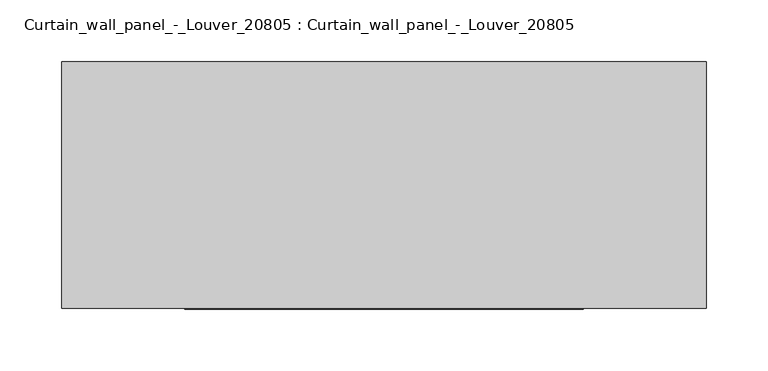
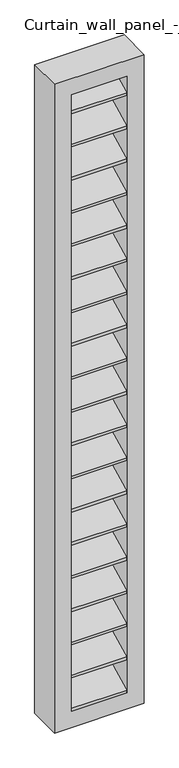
"""IFC4 building model written with IfcOpenShell, lengths in millimetres: plate geometry, Curtain_wall_panel_-_Louver_20805 : Curtain_wall_panel_-_Louver_20805."""

import ifcopenshell
import ifcopenshell.guid

model = None  # the IFC model being written
_history = None  # IfcOwnerHistory: only IFC2X3 demands one
_inside = {}  # id of a spatial element -> (the spatial element, [elements in it])
_under = {}  # id of a project, library or spatial element -> (it, [spatial elements below it])
_declared = {}  # id of a project -> (the project, [libraries it declares])
_typed = {}  # id of a type object -> (the type object, [elements of that type])
_made_of = {}  # id of a material, layer set ... -> (it, [elements and type objects made of it])


def new_model(schema):
    """Start an empty IFC model of exactly this schema.

    Asked for "IFC4X3", IfcOpenShell would pick the latest addendum, in which some entities
    have other attributes; the version numbers below select the first issue.
    IFC2X3 requires an IfcOwnerHistory on every rooted entity: one is made here for all.
    """
    global model, _history
    if schema == "IFC4X3":
        model = ifcopenshell.file(schema_version=(4, 3, 0, 0))
    else:
        model = ifcopenshell.file(schema=schema)
    _inside.clear()
    _under.clear()
    _declared.clear()
    _typed.clear()
    _made_of.clear()
    _history = None
    if model.schema == "IFC2X3":
        org = make("IfcOrganization", Name="unknown")
        user = make(
            "IfcPersonAndOrganization",
            ThePerson=make("IfcPerson", FamilyName="unknown"),
            TheOrganization=org,
        )
        app = make(
            "IfcApplication",
            ApplicationDeveloper=org,
            Version="unknown",
            ApplicationFullName="unknown",
            ApplicationIdentifier="unknown",
        )
        _history = make(
            "IfcOwnerHistory",
            OwningUser=user,
            OwningApplication=app,
            ChangeAction="ADDED",
            CreationDate=0,
        )
    return model


def make(cls, **values):
    """One entity of the class cls with the attributes given. An attribute that is None is left unset."""
    return model.create_entity(
        cls, **{name: value for name, value in values.items() if value is not None}
    )


def rooted(cls, **values):
    """An entity with a GlobalId (a new one), such as an element, a storey or a relation."""
    return make(cls, GlobalId=ifcopenshell.guid.new(), OwnerHistory=_history, **values)


def si_unit(unit_type, name, prefix=None):
    """IfcSIUnit, for example si_unit("LENGTHUNIT", "METRE", prefix="MILLI")."""
    return make("IfcSIUnit", UnitType=unit_type, Prefix=prefix, Name=name)


def assignment(units):
    """IfcUnitAssignment: the units of a project."""
    return None if units is None else make("IfcUnitAssignment", Units=units)


def point(xyz):
    """IfcCartesianPoint."""
    return None if xyz is None else make("IfcCartesianPoint", Coordinates=xyz)


def direction(xyz):
    """IfcDirection."""
    return None if xyz is None else make("IfcDirection", DirectionRatios=xyz)


def frame(location, z_axis=None, x_axis=None):
    """IfcAxis2Placement3D, a coordinate frame: its origin and axes. An axis left out is left unset."""
    return make(
        "IfcAxis2Placement3D",
        Location=point(location),
        Axis=direction(z_axis),
        RefDirection=direction(x_axis),
    )


def origin():
    """The frame at (0, 0, 0) with its axes left unset."""
    return frame((0.0, 0.0, 0.0))


def place(relative_to, where):
    """IfcLocalPlacement: puts the frame where relative to a parent placement (None: the world)."""
    return make(
        "IfcLocalPlacement", PlacementRelTo=relative_to, RelativePlacement=where
    )


def context(
    kind, dimensions, precision=None, world=None, true_north=None, identifier=None
):
    """IfcGeometricRepresentationContext, for example the 3D "Model" context."""
    return make(
        "IfcGeometricRepresentationContext",
        ContextIdentifier=identifier,
        ContextType=kind,
        CoordinateSpaceDimension=dimensions,
        Precision=precision,
        WorldCoordinateSystem=world,
        TrueNorth=true_north,
    )


def project(units=None, contexts=None):
    """IfcProject with its units and contexts."""
    return rooted(
        "IfcProject",
        Name="project",
        RepresentationContexts=contexts,
        UnitsInContext=assignment(units),
    )


def spatial(cls, under=None, at=None, **own):
    """A site, building, storey or space (cls), placed at a placement, below another one or the project."""
    s = rooted(cls, ObjectPlacement=at, **own)
    if under is not None:
        _under.setdefault(under.id(), (under, []))[1].append(s)
    return s


def polyline(points):
    """IfcPolyline through the points."""
    return make("IfcPolyline", Points=[point(p) for p in points])


def outline(outer, holes=None, kind="AREA"):
    """IfcArbitraryClosedProfileDef: a profile drawn as a closed curve; with holes, ...WithVoids."""
    if holes is None:
        return make("IfcArbitraryClosedProfileDef", ProfileType=kind, OuterCurve=outer)
    return make(
        "IfcArbitraryProfileDefWithVoids",
        ProfileType=kind,
        OuterCurve=outer,
        InnerCurves=holes,
    )


def extrude(swept, where, along, depth):
    """IfcExtrudedAreaSolid: the profile swept, set in the frame where, extruded along a direction by depth."""
    return make(
        "IfcExtrudedAreaSolid",
        SweptArea=swept,
        Position=where,
        ExtrudedDirection=direction(along),
        Depth=depth,
    )


def shape(context_of_items, identifier, shape_type, items):
    """IfcShapeRepresentation: the items that make up one representation, for example the "Body"."""
    return make(
        "IfcShapeRepresentation",
        ContextOfItems=context_of_items,
        RepresentationIdentifier=identifier,
        RepresentationType=shape_type,
        Items=items,
    )


def source(mapping_origin, context_of_items, identifier, shape_type, items):
    """IfcRepresentationMap: a shape defined once, which mapped items show again and again."""
    return make(
        "IfcRepresentationMap",
        MappingOrigin=mapping_origin,
        MappedRepresentation=shape(context_of_items, identifier, shape_type, items),
    )


def transform(
    local_origin,
    x_axis=None,
    y_axis=None,
    z_axis=None,
    scale=None,
    scale2=None,
    scale3=None,
    uniform=True,
):
    """IfcCartesianTransformationOperator3D, or its non-uniform kind. x_axis, y_axis, z_axis: its Axis1, 2, 3."""
    if uniform:
        return make(
            "IfcCartesianTransformationOperator3D",
            Axis1=direction(x_axis),
            Axis2=direction(y_axis),
            LocalOrigin=point(local_origin),
            Scale=scale,
            Axis3=direction(z_axis),
        )
    return make(
        "IfcCartesianTransformationOperator3DnonUniform",
        Axis1=direction(x_axis),
        Axis2=direction(y_axis),
        LocalOrigin=point(local_origin),
        Scale=scale,
        Axis3=direction(z_axis),
        Scale2=scale2,
        Scale3=scale3,
    )


def mapped(mapping_source, mapping_target):
    """IfcMappedItem: shows the shape of a source again, moved by a transform."""
    return make(
        "IfcMappedItem", MappingSource=mapping_source, MappingTarget=mapping_target
    )


def made_of(thing, what):
    """Note that an element or type object is made of a material, layer set ...; save() writes the relation."""
    if what is not None:
        _made_of.setdefault(what.id(), (what, []))[1].append(thing)
    return thing


def element(
    cls,
    number,
    at=None,
    inside=None,
    cuts=None,
    type_object=None,
    material=None,
    context=None,
    identifier="Body",
    shape_type=None,
    held_by="IfcProductDefinitionShape",
    body=None,
    shapes=None,
    **own,
):
    """One element of the class cls, such as IfcWall. Its Tag is "e" and its number.

    at: its placement. inside: the storey or other place that contains it. cuts: it is an
    opening in that element (IfcRelVoidsElement). A single representation is given by context,
    identifier, shape_type and body (its items); several are given by shapes. held_by: the class
    of the entity that holds the representations. save() writes the other relations.
    """
    e = rooted(cls, Tag="e%d" % number, ObjectPlacement=at, **own)
    if body is not None:
        shapes = [shape(context, identifier, shape_type, body)]
    if shapes is not None:
        e.Representation = make(held_by, Representations=shapes)
    if inside is not None:
        _inside.setdefault(inside.id(), (inside, []))[1].append(e)
    if cuts is not None:
        rooted(
            "IfcRelVoidsElement", RelatingBuildingElement=cuts, RelatedOpeningElement=e
        )
    if type_object is not None:
        _typed.setdefault(type_object.id(), (type_object, []))[1].append(e)
    return made_of(e, material)


def aggregate(whole, parts):
    """IfcRelAggregates: a whole, such as a stair, and the parts it consists of."""
    return rooted("IfcRelAggregates", RelatingObject=whole, RelatedObjects=parts)


def save(model, path):
    """Write the relations noted so far, then the file.

    IfcRelAggregates (storeys below a building ...), IfcRelContainedInSpatialStructure (elements
    in a storey), IfcRelDefinesByType, IfcRelAssociatesMaterial and IfcRelDeclares: one each for
    every whole, place, type object, material and project.
    """
    for whole, parts in _under.values():
        aggregate(whole, parts)
    for where, things in _inside.values():
        rooted(
            "IfcRelContainedInSpatialStructure",
            RelatedElements=things,
            RelatingStructure=where,
        )
    for kind, things in _typed.values():
        rooted("IfcRelDefinesByType", RelatedObjects=things, RelatingType=kind)
    for what, things in _made_of.values():
        rooted("IfcRelAssociatesMaterial", RelatedObjects=things, RelatingMaterial=what)
    for by, libraries in _declared.values():
        rooted("IfcRelDeclares", RelatingContext=by, RelatedDefinitions=libraries)
    model.write(path)


def curtain_wall_panel_louver_20805_curtain_wall_panel_louver_e35027b3(model_context):
    return source(origin(), model_context, "Body", "SweptSolid", [
        extrude(outline(polyline([(200.0, 3678.5908966), (0.0, 3579.2058986), (0.0, 3595.9558314), (200.0, 3695.3408295), (200.0, 3678.5908966)])), frame((-161.3749998, 0.0, 0.0), z_axis=(1.0, 0.0, 0.0), x_axis=(0.0, 1.0, 0.0)), (0.0, 0.0, 1.0), 322.7499997),
        extrude(outline(polyline([(200.0, 3473.9317261), (0.0, 3374.546728), (0.0, 3391.2966609), (200.0, 3490.681659), (200.0, 3473.9317261)])), frame((-161.3749998, 0.0, 0.0), z_axis=(1.0, 0.0, 0.0), x_axis=(0.0, 1.0, 0.0)), (0.0, 0.0, 1.0), 322.7499997),
        extrude(outline(polyline([(200.0, 3269.2725556), (0.0, 3169.8875575), (0.0, 3186.6374904), (200.0, 3286.0224885), (200.0, 3269.2725556)])), frame((-161.3749998, 0.0, 0.0), z_axis=(1.0, 0.0, 0.0), x_axis=(0.0, 1.0, 0.0)), (0.0, 0.0, 1.0), 322.7499997),
        extrude(outline(polyline([(200.0, 3064.6133851), (0.0, 2965.228387), (0.0, 2981.9783199), (200.0, 3081.363318), (200.0, 3064.6133851)])), frame((-161.3749998, 0.0, 0.0), z_axis=(1.0, 0.0, 0.0), x_axis=(0.0, 1.0, 0.0)), (0.0, 0.0, 1.0), 322.7499997),
        extrude(outline(polyline([(200.0, 2859.9542146), (0.0, 2760.5692165), (0.0, 2777.3191494), (200.0, 2876.7041475), (200.0, 2859.9542146)])), frame((-161.3749998, 0.0, 0.0), z_axis=(1.0, 0.0, 0.0), x_axis=(0.0, 1.0, 0.0)), (0.0, 0.0, 1.0), 322.7499997),
        extrude(outline(polyline([(200.0, 2655.2950441), (0.0, 2555.910046), (0.0, 2572.6599789), (200.0, 2672.044977), (200.0, 2655.2950441)])), frame((-161.3749998, 0.0, 0.0), z_axis=(1.0, 0.0, 0.0), x_axis=(0.0, 1.0, 0.0)), (0.0, 0.0, 1.0), 322.7499997),
        extrude(outline(polyline([(200.0, 2450.6358736), (0.0, 2351.2508755), (0.0, 2368.0008084), (200.0, 2467.3858065), (200.0, 2450.6358736)])), frame((-161.3749998, 0.0, 0.0), z_axis=(1.0, 0.0, 0.0), x_axis=(0.0, 1.0, 0.0)), (0.0, 0.0, 1.0), 322.7499997),
        extrude(outline(polyline([(200.0, 2245.9767031), (0.0, 2146.591705), (0.0, 2163.3416379), (200.0, 2262.726636), (200.0, 2245.9767031)])), frame((-161.3749998, 0.0, 0.0), z_axis=(1.0, 0.0, 0.0), x_axis=(0.0, 1.0, 0.0)), (0.0, 0.0, 1.0), 322.7499997),
        extrude(outline(polyline([(200.0, 2041.3175326), (0.0, 1941.9325345), (0.0, 1958.6824674), (200.0, 2058.0674655), (200.0, 2041.3175326)])), frame((-161.3749998, 0.0, 0.0), z_axis=(1.0, 0.0, 0.0), x_axis=(0.0, 1.0, 0.0)), (0.0, 0.0, 1.0), 322.7499997),
        extrude(outline(polyline([(200.0, 1836.6583621), (0.0, 1737.273364), (0.0, 1754.0232969), (200.0, 1853.408295), (200.0, 1836.6583621)])), frame((-161.3749998, 0.0, 0.0), z_axis=(1.0, 0.0, 0.0), x_axis=(0.0, 1.0, 0.0)), (0.0, 0.0, 1.0), 322.7499997),
        extrude(outline(polyline([(200.0, 1631.9991916), (0.0, 1532.6141935), (0.0, 1549.3641264), (200.0, 1648.7491245), (200.0, 1631.9991916)])), frame((-161.3749998, 0.0, 0.0), z_axis=(1.0, 0.0, 0.0), x_axis=(0.0, 1.0, 0.0)), (0.0, 0.0, 1.0), 322.7499997),
        extrude(outline(polyline([(200.0, 1427.3400211), (0.0, 1327.955023), (0.0, 1344.7049559), (200.0, 1444.089954), (200.0, 1427.3400211)])), frame((-161.3749998, 0.0, 0.0), z_axis=(1.0, 0.0, 0.0), x_axis=(0.0, 1.0, 0.0)), (0.0, 0.0, 1.0), 322.7499997),
        extrude(outline(polyline([(200.0, 1222.6808506), (0.0, 1123.2958525), (0.0, 1140.0457854), (200.0, 1239.4307835), (200.0, 1222.6808506)])), frame((-161.3749998, 0.0, 0.0), z_axis=(1.0, 0.0, 0.0), x_axis=(0.0, 1.0, 0.0)), (0.0, 0.0, 1.0), 322.7499997),
        extrude(outline(polyline([(200.0, 1018.0216801), (0.0, 918.636682), (0.0, 935.3866149), (200.0, 1034.771613), (200.0, 1018.0216801)])), frame((-161.3749998, 0.0, 0.0), z_axis=(1.0, 0.0, 0.0), x_axis=(0.0, 1.0, 0.0)), (0.0, 0.0, 1.0), 322.7499997),
        extrude(outline(polyline([(200.0, 813.3625096), (0.0, 713.9775115), (0.0, 730.7274444), (200.0, 830.1124425), (200.0, 813.3625096)])), frame((-161.3749998, 0.0, 0.0), z_axis=(1.0, 0.0, 0.0), x_axis=(0.0, 1.0, 0.0)), (0.0, 0.0, 1.0), 322.7499997),
        extrude(outline(polyline([(200.0, 608.7033391), (0.0, 509.318341), (0.0, 526.0682739), (200.0, 625.453272), (200.0, 608.7033391)])), frame((-161.3749998, 0.0, 0.0), z_axis=(1.0, 0.0, 0.0), x_axis=(0.0, 1.0, 0.0)), (0.0, 0.0, 1.0), 322.7499997),
        extrude(outline(polyline([(200.0, 404.0441686), (0.0, 304.6591705), (0.0, 321.4091034), (200.0, 420.7941014), (200.0, 404.0441686)])), frame((-161.3749998, 0.0, 0.0), z_axis=(1.0, 0.0, 0.0), x_axis=(0.0, 1.0, 0.0)), (0.0, 0.0, 1.0), 322.7499997),
        extrude(outline(polyline([(200.0, 3883.2500672), (0.0, 3783.8650691), (0.0, 3800.6150019), (200.0, 3900.0), (200.0, 3883.2500672)])), frame((-161.3749998, 0.0, 0.0), z_axis=(1.0, 0.0, 0.0), x_axis=(0.0, 1.0, 0.0)), (0.0, 0.0, 1.0), 322.7499997),
        extrude(outline(polyline([(200.0, 199.3849981), (0.0, 100.0), (0.0, 116.7499328), (200.0, 216.1349309), (200.0, 199.3849981)])), frame((-161.3749998, 0.0, 0.0), z_axis=(1.0, 0.0, 0.0), x_axis=(0.0, 1.0, 0.0)), (0.0, 0.0, 1.0), 322.7499997),
        extrude(outline(polyline([(4000.0, -261.3749998), (0.0, -261.3749998), (0.0, 261.3749998), (4000.0, 261.3749998), (4000.0, -261.3749998)]), holes=[polyline([(3900.0, -161.3749998), (3900.0, 161.3749998), (100.0, 161.3749998), (100.0, -161.3749998), (3900.0, -161.3749998)])]), frame((0.0, 0.0, 0.0), z_axis=(0.0, 1.0, 0.0), x_axis=(0.0, 0.0, 1.0)), (0.0, 0.0, 1.0), 200.0),
    ])


if __name__ == "__main__":
    model = new_model("IFC4")
    model_context = context("Model", 3, world=origin())
    ifc_project = project(units=[si_unit("LENGTHUNIT", "METRE", prefix="MILLI")], contexts=[model_context])
    site = spatial("IfcSite", under=ifc_project)
    building = spatial("IfcBuilding", under=site)
    placement = place(None, origin())
    curtain_wall_panel_louver_20805_curtain_wall_panel_louver_shape = curtain_wall_panel_louver_20805_curtain_wall_panel_louver_e35027b3(model_context)
    element("IfcPlate", 1, ObjectType="Curtain_wall_panel_-_Louver_20805 : Curtain_wall_panel_-_Louver_20805", at=placement, inside=building, context=model_context, shape_type="MappedRepresentation", body=[
        mapped(curtain_wall_panel_louver_20805_curtain_wall_panel_louver_shape, transform((0.0, 0.0, 0.0), x_axis=(1.0, 0.0, 0.0), y_axis=(0.0, 1.0, 0.0), z_axis=(0.0, 0.0, 1.0))),
    ])
    save(model, "model.ifc")
